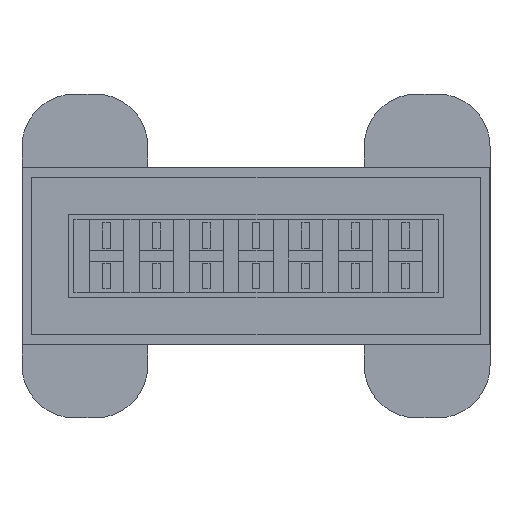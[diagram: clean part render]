
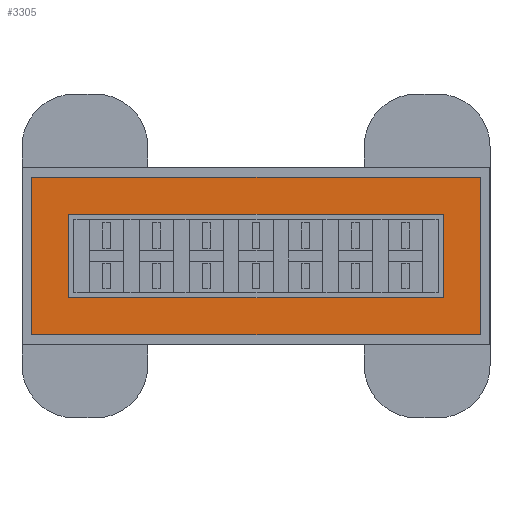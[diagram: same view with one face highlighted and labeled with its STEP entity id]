
A CAD part, top view. The second image highlights one B-rep face of the part: STEP entity #3305.
In plain terms, the highlighted planar face has unit normal (0, 0, 1).
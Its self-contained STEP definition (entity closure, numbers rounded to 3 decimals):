
#31=FACE_BOUND('',#558,.T.);
#195=PLANE('',#3508);
#368=FACE_OUTER_BOUND('',#557,.T.);
#557=EDGE_LOOP('',(#3110,#3111,#3112,#3113));
#558=EDGE_LOOP('',(#3114,#3115,#3116,#3117));
#615=LINE('',#4477,#1055);
#619=LINE('',#4485,#1059);
#622=LINE('',#4491,#1062);
#625=LINE('',#4496,#1065);
#904=LINE('',#5060,#1344);
#907=LINE('',#5065,#1347);
#909=LINE('',#5069,#1349);
#911=LINE('',#5072,#1351);
#1055=VECTOR('',#3649,10.);
#1059=VECTOR('',#3655,10.);
#1062=VECTOR('',#3660,10.);
#1065=VECTOR('',#3665,10.);
#1344=VECTOR('',#4114,10.);
#1347=VECTOR('',#4119,10.);
#1349=VECTOR('',#4123,10.);
#1351=VECTOR('',#4127,10.);
#1504=VERTEX_POINT('',#4475);
#1505=VERTEX_POINT('',#4476);
#1508=VERTEX_POINT('',#4484);
#1510=VERTEX_POINT('',#4490);
#1710=VERTEX_POINT('',#5058);
#1711=VERTEX_POINT('',#5059);
#1712=VERTEX_POINT('',#5064);
#1713=VERTEX_POINT('',#5068);
#1829=EDGE_CURVE('',#1504,#1505,#615,.T.);
#1833=EDGE_CURVE('',#1505,#1508,#619,.T.);
#1836=EDGE_CURVE('',#1508,#1510,#622,.T.);
#1839=EDGE_CURVE('',#1510,#1504,#625,.T.);
#2118=EDGE_CURVE('',#1710,#1711,#904,.T.);
#2121=EDGE_CURVE('',#1712,#1710,#907,.T.);
#2123=EDGE_CURVE('',#1713,#1712,#909,.T.);
#2125=EDGE_CURVE('',#1711,#1713,#911,.T.);
#3110=ORIENTED_EDGE('',*,*,#1829,.T.);
#3111=ORIENTED_EDGE('',*,*,#1833,.T.);
#3112=ORIENTED_EDGE('',*,*,#1836,.T.);
#3113=ORIENTED_EDGE('',*,*,#1839,.T.);
#3114=ORIENTED_EDGE('',*,*,#2118,.T.);
#3115=ORIENTED_EDGE('',*,*,#2125,.T.);
#3116=ORIENTED_EDGE('',*,*,#2123,.T.);
#3117=ORIENTED_EDGE('',*,*,#2121,.T.);
#3305=ADVANCED_FACE('',(#368,#31),#195,.T.);
#3508=AXIS2_PLACEMENT_3D('',#5260,#4326,#4327);
#3649=DIRECTION('',(1.,0.,0.));
#3655=DIRECTION('',(0.,1.,0.));
#3660=DIRECTION('',(-1.,0.,0.));
#3665=DIRECTION('',(0.,-1.,0.));
#4114=DIRECTION('',(1.,0.,0.));
#4119=DIRECTION('',(0.,1.,0.));
#4123=DIRECTION('',(-1.,0.,0.));
#4127=DIRECTION('',(0.,-1.,0.));
#4326=DIRECTION('center_axis',(0.,0.,1.));
#4327=DIRECTION('ref_axis',(1.,0.,0.));
#4475=CARTESIAN_POINT('',(-8.,-8.,0.));
#4476=CARTESIAN_POINT('',(77.5,-8.,0.));
#4477=CARTESIAN_POINT('',(56.125,-8.,0.));
#4484=CARTESIAN_POINT('',(77.5,22.,0.));
#4485=CARTESIAN_POINT('',(77.5,14.5,0.));
#4490=CARTESIAN_POINT('',(-8.,22.,0.));
#4491=CARTESIAN_POINT('',(13.375,22.,0.));
#4496=CARTESIAN_POINT('',(-8.,-0.5,0.));
#5058=CARTESIAN_POINT('',(-1.,15.,0.));
#5059=CARTESIAN_POINT('',(70.5,15.,0.));
#5060=CARTESIAN_POINT('',(16.875,15.,0.));
#5064=CARTESIAN_POINT('',(-1.,-1.,0.));
#5065=CARTESIAN_POINT('',(-1.,3.,0.));
#5068=CARTESIAN_POINT('',(70.5,-1.,0.));
#5069=CARTESIAN_POINT('',(52.625,-1.,0.));
#5072=CARTESIAN_POINT('',(70.5,11.,0.));
#5260=CARTESIAN_POINT('Origin',(34.75,7.,0.));
